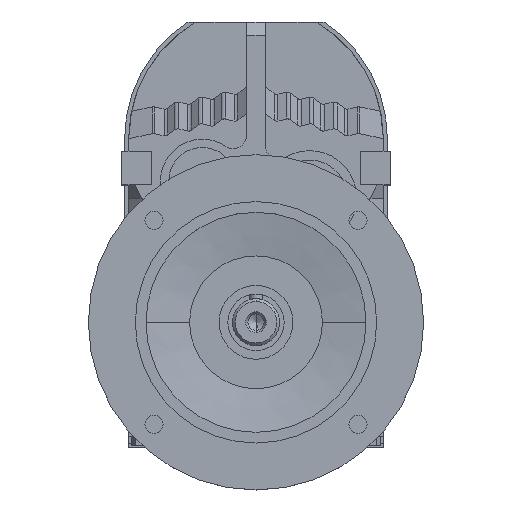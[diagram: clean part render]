
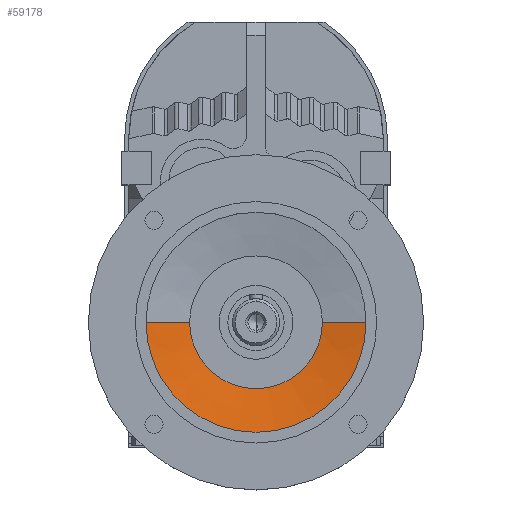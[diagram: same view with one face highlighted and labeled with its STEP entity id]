
A CAD part, top view. The second image highlights one B-rep face of the part: STEP entity #59178.
In plain terms, the highlighted conical face has half-angle 80.395 degrees and reference radius 82 mm.
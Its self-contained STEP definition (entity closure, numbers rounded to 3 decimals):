
#58119 = CYLINDRICAL_SURFACE('',#58120,82.);
#58120 = AXIS2_PLACEMENT_3D('',#58121,#58122,#58123);
#58121 = CARTESIAN_POINT('',(0.,-136.,0.));
#58122 = DIRECTION('',(0.,0.,-1.));
#58123 = DIRECTION('',(-1.,0.,0.));
#58529 = VERTEX_POINT('',#58530);
#58530 = CARTESIAN_POINT('',(-82.,-136.,167.5));
#58549 = EDGE_CURVE('',#58550,#58529,#58552,.T.);
#58550 = VERTEX_POINT('',#58551);
#58551 = CARTESIAN_POINT('',(82.,-136.,167.5));
#58552 = SURFACE_CURVE('',#58553,(#58558,#58564),.PCURVE_S1.);
#58553 = CIRCLE('',#58554,82.);
#58554 = AXIS2_PLACEMENT_3D('',#58555,#58556,#58557);
#58555 = CARTESIAN_POINT('',(0.,-136.,167.5));
#58556 = DIRECTION('',(0.,0.,-1.));
#58557 = DIRECTION('',(-1.,0.,0.));
#58558 = PCURVE('',#58119,#58559);
#58559 = DEFINITIONAL_REPRESENTATION('',(#58560),#58563);
#58560 = B_SPLINE_CURVE_WITH_KNOTS('',1,(#58561,#58562),.UNSPECIFIED.,
  .F.,.F.,(2,2),(3.142,6.283),.PIECEWISE_BEZIER_KNOTS.);
#58561 = CARTESIAN_POINT('',(3.142,-167.5));
#58562 = CARTESIAN_POINT('',(6.283,-167.5));
#58563 = ( GEOMETRIC_REPRESENTATION_CONTEXT(2) 
PARAMETRIC_REPRESENTATION_CONTEXT() REPRESENTATION_CONTEXT('2D SPACE',''
  ) );
#58564 = PCURVE('',#58565,#58570);
#58565 = CONICAL_SURFACE('',#58566,82.,1.403);
#58566 = AXIS2_PLACEMENT_3D('',#58567,#58568,#58569);
#58567 = CARTESIAN_POINT('',(0.,-136.,167.5));
#58568 = DIRECTION('',(0.,0.,1.));
#58569 = DIRECTION('',(1.,0.,0.));
#58570 = DEFINITIONAL_REPRESENTATION('',(#58571),#58597);
#58571 = B_SPLINE_CURVE_WITH_KNOTS('',3,(#58572,#58573,#58574,#58575,
    #58576,#58577,#58578,#58579,#58580,#58581,#58582,#58583,#58584,
    #58585,#58586,#58587,#58588,#58589,#58590,#58591,#58592,#58593,
    #58594,#58595,#58596),.UNSPECIFIED.,.F.,.F.,(4,1,1,1,1,1,1,1,1,1,1,1
    ,1,1,1,1,1,1,1,1,1,1,4),(3.142,3.284,3.427
    ,3.57,3.713,3.856,3.998,
    4.141,4.284,4.427,4.57,
    4.712,4.855,4.998,5.141,
    5.284,5.426,5.569,5.712,
    5.855,5.998,6.14,6.283),
  .QUASI_UNIFORM_KNOTS.);
#58572 = CARTESIAN_POINT('',(6.283,0.));
#58573 = CARTESIAN_POINT('',(6.236,0.));
#58574 = CARTESIAN_POINT('',(6.14,0.));
#58575 = CARTESIAN_POINT('',(5.998,0.));
#58576 = CARTESIAN_POINT('',(5.855,0.));
#58577 = CARTESIAN_POINT('',(5.712,0.));
#58578 = CARTESIAN_POINT('',(5.569,0.));
#58579 = CARTESIAN_POINT('',(5.426,0.));
#58580 = CARTESIAN_POINT('',(5.284,0.));
#58581 = CARTESIAN_POINT('',(5.141,0.));
#58582 = CARTESIAN_POINT('',(4.998,0.));
#58583 = CARTESIAN_POINT('',(4.855,0.));
#58584 = CARTESIAN_POINT('',(4.712,0.));
#58585 = CARTESIAN_POINT('',(4.57,0.));
#58586 = CARTESIAN_POINT('',(4.427,0.));
#58587 = CARTESIAN_POINT('',(4.284,0.));
#58588 = CARTESIAN_POINT('',(4.141,0.));
#58589 = CARTESIAN_POINT('',(3.998,0.));
#58590 = CARTESIAN_POINT('',(3.856,0.));
#58591 = CARTESIAN_POINT('',(3.713,0.));
#58592 = CARTESIAN_POINT('',(3.57,0.));
#58593 = CARTESIAN_POINT('',(3.427,0.));
#58594 = CARTESIAN_POINT('',(3.284,0.));
#58595 = CARTESIAN_POINT('',(3.189,0.));
#58596 = CARTESIAN_POINT('',(3.142,0.));
#58597 = ( GEOMETRIC_REPRESENTATION_CONTEXT(2) 
PARAMETRIC_REPRESENTATION_CONTEXT() REPRESENTATION_CONTEXT('2D SPACE',''
  ) );
#58636 = CONICAL_SURFACE('',#58637,82.,1.403);
#58637 = AXIS2_PLACEMENT_3D('',#58638,#58639,#58640);
#58638 = CARTESIAN_POINT('',(0.,-136.,167.5));
#58639 = DIRECTION('',(0.,0.,1.));
#58640 = DIRECTION('',(1.,0.,0.));
#59178 = ADVANCED_FACE('',(#59179),#58565,.F.);
#59179 = FACE_BOUND('',#59180,.F.);
#59180 = EDGE_LOOP('',(#59181,#59233,#59252,#59253));
#59181 = ORIENTED_EDGE('',*,*,#59182,.F.);
#59182 = EDGE_CURVE('',#59183,#59185,#59187,.T.);
#59183 = VERTEX_POINT('',#59184);
#59184 = CARTESIAN_POINT('',(49.5,-136.,162.));
#59185 = VERTEX_POINT('',#59186);
#59186 = CARTESIAN_POINT('',(-49.5,-136.,162.));
#59187 = SURFACE_CURVE('',#59188,(#59193,#59222),.PCURVE_S1.);
#59188 = CIRCLE('',#59189,49.5);
#59189 = AXIS2_PLACEMENT_3D('',#59190,#59191,#59192);
#59190 = CARTESIAN_POINT('',(0.,-136.,162.));
#59191 = DIRECTION('',(0.,0.,-1.));
#59192 = DIRECTION('',(-1.,0.,0.));
#59193 = PCURVE('',#58565,#59194);
#59194 = DEFINITIONAL_REPRESENTATION('',(#59195),#59221);
#59195 = B_SPLINE_CURVE_WITH_KNOTS('',3,(#59196,#59197,#59198,#59199,
    #59200,#59201,#59202,#59203,#59204,#59205,#59206,#59207,#59208,
    #59209,#59210,#59211,#59212,#59213,#59214,#59215,#59216,#59217,
    #59218,#59219,#59220),.UNSPECIFIED.,.F.,.F.,(4,1,1,1,1,1,1,1,1,1,1,1
    ,1,1,1,1,1,1,1,1,1,1,4),(3.142,3.284,3.427
    ,3.57,3.713,3.856,3.998,
    4.141,4.284,4.427,4.57,
    4.712,4.855,4.998,5.141,
    5.284,5.426,5.569,5.712,
    5.855,5.998,6.14,6.283),
  .QUASI_UNIFORM_KNOTS.);
#59196 = CARTESIAN_POINT('',(6.283,-5.5));
#59197 = CARTESIAN_POINT('',(6.236,-5.5));
#59198 = CARTESIAN_POINT('',(6.14,-5.5));
#59199 = CARTESIAN_POINT('',(5.998,-5.5));
#59200 = CARTESIAN_POINT('',(5.855,-5.5));
#59201 = CARTESIAN_POINT('',(5.712,-5.5));
#59202 = CARTESIAN_POINT('',(5.569,-5.5));
#59203 = CARTESIAN_POINT('',(5.426,-5.5));
#59204 = CARTESIAN_POINT('',(5.284,-5.5));
#59205 = CARTESIAN_POINT('',(5.141,-5.5));
#59206 = CARTESIAN_POINT('',(4.998,-5.5));
#59207 = CARTESIAN_POINT('',(4.855,-5.5));
#59208 = CARTESIAN_POINT('',(4.712,-5.5));
#59209 = CARTESIAN_POINT('',(4.57,-5.5));
#59210 = CARTESIAN_POINT('',(4.427,-5.5));
#59211 = CARTESIAN_POINT('',(4.284,-5.5));
#59212 = CARTESIAN_POINT('',(4.141,-5.5));
#59213 = CARTESIAN_POINT('',(3.998,-5.5));
#59214 = CARTESIAN_POINT('',(3.856,-5.5));
#59215 = CARTESIAN_POINT('',(3.713,-5.5));
#59216 = CARTESIAN_POINT('',(3.57,-5.5));
#59217 = CARTESIAN_POINT('',(3.427,-5.5));
#59218 = CARTESIAN_POINT('',(3.284,-5.5));
#59219 = CARTESIAN_POINT('',(3.189,-5.5));
#59220 = CARTESIAN_POINT('',(3.142,-5.5));
#59221 = ( GEOMETRIC_REPRESENTATION_CONTEXT(2) 
PARAMETRIC_REPRESENTATION_CONTEXT() REPRESENTATION_CONTEXT('2D SPACE',''
  ) );
#59222 = PCURVE('',#59223,#59228);
#59223 = CYLINDRICAL_SURFACE('',#59224,49.5);
#59224 = AXIS2_PLACEMENT_3D('',#59225,#59226,#59227);
#59225 = CARTESIAN_POINT('',(0.,-136.,0.));
#59226 = DIRECTION('',(0.,0.,-1.));
#59227 = DIRECTION('',(-1.,0.,0.));
#59228 = DEFINITIONAL_REPRESENTATION('',(#59229),#59232);
#59229 = B_SPLINE_CURVE_WITH_KNOTS('',1,(#59230,#59231),.UNSPECIFIED.,
  .F.,.F.,(2,2),(3.142,6.283),.PIECEWISE_BEZIER_KNOTS.);
#59230 = CARTESIAN_POINT('',(3.142,-162.));
#59231 = CARTESIAN_POINT('',(6.283,-162.));
#59232 = ( GEOMETRIC_REPRESENTATION_CONTEXT(2) 
PARAMETRIC_REPRESENTATION_CONTEXT() REPRESENTATION_CONTEXT('2D SPACE',''
  ) );
#59233 = ORIENTED_EDGE('',*,*,#59234,.T.);
#59234 = EDGE_CURVE('',#59183,#58550,#59235,.T.);
#59235 = SURFACE_CURVE('',#59236,(#59240,#59246),.PCURVE_S1.);
#59236 = LINE('',#59237,#59238);
#59237 = CARTESIAN_POINT('',(82.,-136.,167.5));
#59238 = VECTOR('',#59239,1.);
#59239 = DIRECTION('',(0.986,0.,0.167));
#59240 = PCURVE('',#58565,#59241);
#59241 = DEFINITIONAL_REPRESENTATION('',(#59242),#59245);
#59242 = B_SPLINE_CURVE_WITH_KNOTS('',1,(#59243,#59244),.UNSPECIFIED.,
  .F.,.F.,(2,2),(-32.962,0.),.PIECEWISE_BEZIER_KNOTS.);
#59243 = CARTESIAN_POINT('',(6.283,-5.5));
#59244 = CARTESIAN_POINT('',(6.283,0.));
#59245 = ( GEOMETRIC_REPRESENTATION_CONTEXT(2) 
PARAMETRIC_REPRESENTATION_CONTEXT() REPRESENTATION_CONTEXT('2D SPACE',''
  ) );
#59246 = PCURVE('',#58636,#59247);
#59247 = DEFINITIONAL_REPRESENTATION('',(#59248),#59251);
#59248 = B_SPLINE_CURVE_WITH_KNOTS('',1,(#59249,#59250),.UNSPECIFIED.,
  .F.,.F.,(2,2),(-32.962,0.),.PIECEWISE_BEZIER_KNOTS.);
#59249 = CARTESIAN_POINT('',(0.,-5.5));
#59250 = CARTESIAN_POINT('',(0.,0.));
#59251 = ( GEOMETRIC_REPRESENTATION_CONTEXT(2) 
PARAMETRIC_REPRESENTATION_CONTEXT() REPRESENTATION_CONTEXT('2D SPACE',''
  ) );
#59252 = ORIENTED_EDGE('',*,*,#58549,.T.);
#59253 = ORIENTED_EDGE('',*,*,#59254,.F.);
#59254 = EDGE_CURVE('',#59185,#58529,#59255,.T.);
#59255 = SURFACE_CURVE('',#59256,(#59260,#59266),.PCURVE_S1.);
#59256 = LINE('',#59257,#59258);
#59257 = CARTESIAN_POINT('',(-82.,-136.,167.5));
#59258 = VECTOR('',#59259,1.);
#59259 = DIRECTION('',(-0.986,0.,
    0.167));
#59260 = PCURVE('',#58565,#59261);
#59261 = DEFINITIONAL_REPRESENTATION('',(#59262),#59265);
#59262 = B_SPLINE_CURVE_WITH_KNOTS('',1,(#59263,#59264),.UNSPECIFIED.,
  .F.,.F.,(2,2),(-32.962,0.),.PIECEWISE_BEZIER_KNOTS.);
#59263 = CARTESIAN_POINT('',(3.142,-5.5));
#59264 = CARTESIAN_POINT('',(3.142,0.));
#59265 = ( GEOMETRIC_REPRESENTATION_CONTEXT(2) 
PARAMETRIC_REPRESENTATION_CONTEXT() REPRESENTATION_CONTEXT('2D SPACE',''
  ) );
#59266 = PCURVE('',#58636,#59267);
#59267 = DEFINITIONAL_REPRESENTATION('',(#59268),#59271);
#59268 = B_SPLINE_CURVE_WITH_KNOTS('',1,(#59269,#59270),.UNSPECIFIED.,
  .F.,.F.,(2,2),(-32.962,0.),.PIECEWISE_BEZIER_KNOTS.);
#59269 = CARTESIAN_POINT('',(3.142,-5.5));
#59270 = CARTESIAN_POINT('',(3.142,0.));
#59271 = ( GEOMETRIC_REPRESENTATION_CONTEXT(2) 
PARAMETRIC_REPRESENTATION_CONTEXT() REPRESENTATION_CONTEXT('2D SPACE',''
  ) );
